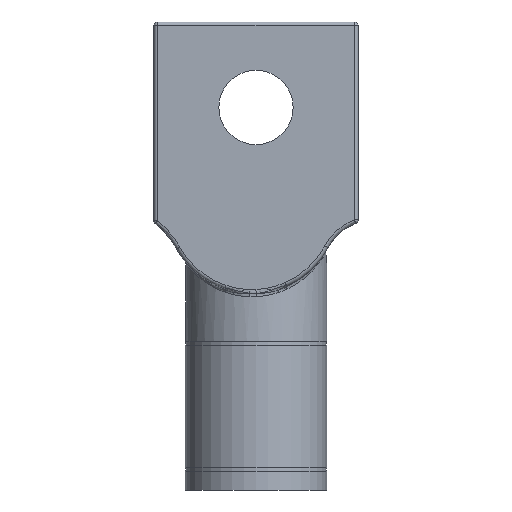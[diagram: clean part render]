
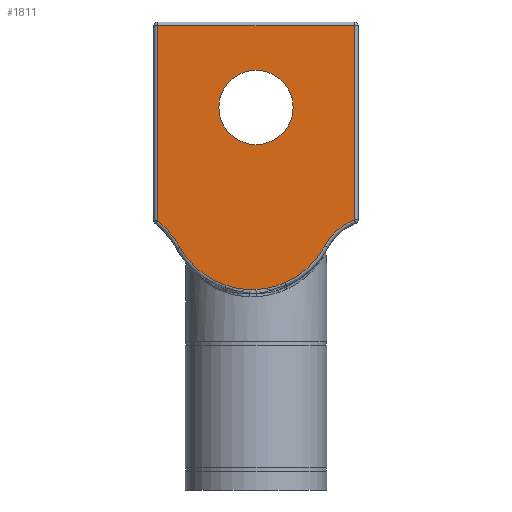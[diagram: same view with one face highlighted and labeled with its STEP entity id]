
A CAD part, front view. The second image highlights one B-rep face of the part: STEP entity #1811.
In plain terms, the highlighted planar face has unit normal (0, -1, 0).
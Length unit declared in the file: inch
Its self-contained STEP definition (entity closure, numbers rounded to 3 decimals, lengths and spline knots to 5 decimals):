
#291 = CARTESIAN_POINT ( 'NONE',  ( 0.07911, -0.19, 0.55868 ) ) ;
#312 = VERTEX_POINT ( 'NONE', #414 ) ;
#313 = VERTEX_POINT ( 'NONE', #415 ) ;
#314 = VERTEX_POINT ( 'NONE', #291 ) ;
#315 = VERTEX_POINT ( 'NONE', #417 ) ;
#323 = VERTEX_POINT ( 'NONE', #440 ) ;
#352 = CARTESIAN_POINT ( 'NONE',  ( -0.08094, -0.19, 0.55097 ) ) ;
#414 = CARTESIAN_POINT ( 'NONE',  ( -0.265, -0.19, 0.72488 ) ) ;
#415 = CARTESIAN_POINT ( 'NONE',  ( 0.265, -0.19, 1.25 ) ) ;
#417 = CARTESIAN_POINT ( 'NONE',  ( -0.0002, -0.19, 0.53984 ) ) ;
#440 = CARTESIAN_POINT ( 'NONE',  ( -0.265, -0.19, 1.25 ) ) ;
#450 = VERTEX_POINT ( 'NONE', #352 ) ;
#451 = VERTEX_POINT ( 'NONE', #571 ) ;
#453 = VERTEX_POINT ( 'NONE', #573 ) ;
#454 = VERTEX_POINT ( 'NONE', #534 ) ;
#534 = CARTESIAN_POINT ( 'NONE',  ( 0.18494, -0.19, 0.65727 ) ) ;
#571 = CARTESIAN_POINT ( 'NONE',  ( -0.20493, -0.19, 0.65368 ) ) ;
#573 = CARTESIAN_POINT ( 'NONE',  ( 0.265, -0.19, 0.7271 ) ) ;
#683 = AXIS2_PLACEMENT_3D ( 'NONE', #3499, #3486, #3485 ) ;
#1811 = ADVANCED_FACE ( 'NONE', ( #4006, #4000 ), #3495, .T. ) ;
#2003 = AXIS2_PLACEMENT_3D ( 'NONE', #4121, #4116, #4114 ) ;
#2006 = AXIS2_PLACEMENT_3D ( 'NONE', #4043, #4040, #4208 ) ;
#2007 = AXIS2_PLACEMENT_3D ( 'NONE', #4088, #4085, #4082 ) ;
#2323 = VERTEX_POINT ( 'NONE', #2324 ) ;
#2324 = CARTESIAN_POINT ( 'NONE',  ( 0., -0.19, 0.93 ) ) ;
#3485 = DIRECTION ( 'NONE',  ( 0., 0., -1. ) ) ;
#3486 = DIRECTION ( 'NONE',  ( 0., -1., 0. ) ) ;
#3495 = PLANE ( 'NONE',  #683 ) ;
#3499 = CARTESIAN_POINT ( 'NONE',  ( 0.275, -0.19, 0.55862 ) ) ;
#3602 = EDGE_LOOP ( 'NONE', ( #3938 ) ) ;
#3643 = EDGE_LOOP ( 'NONE', ( #3937, #3936, #3935, #3934, #3933, #3932, #3931, #3930, #3929 ) ) ;
#3929 = ORIENTED_EDGE ( 'NONE', *, *, #4376, .T. ) ;
#3930 = ORIENTED_EDGE ( 'NONE', *, *, #4375, .T. ) ;
#3931 = ORIENTED_EDGE ( 'NONE', *, *, #4374, .T. ) ;
#3932 = ORIENTED_EDGE ( 'NONE', *, *, #4373, .T. ) ;
#3933 = ORIENTED_EDGE ( 'NONE', *, *, #4369, .F. ) ;
#3934 = ORIENTED_EDGE ( 'NONE', *, *, #4372, .F. ) ;
#3935 = ORIENTED_EDGE ( 'NONE', *, *, #4370, .T. ) ;
#3936 = ORIENTED_EDGE ( 'NONE', *, *, #4371, .T. ) ;
#3937 = ORIENTED_EDGE ( 'NONE', *, *, #4367, .T. ) ;
#3938 = ORIENTED_EDGE ( 'NONE', *, *, #4368, .F. ) ;
#4000 = FACE_OUTER_BOUND ( 'NONE', #3643, .T. ) ;
#4006 = FACE_BOUND ( 'NONE', #3602, .T. ) ;
#4040 = DIRECTION ( 'NONE',  ( 0., -1., 0. ) ) ;
#4043 = CARTESIAN_POINT ( 'NONE',  ( -0.0096, -0.19, 0.76 ) ) ;
#4046 = CARTESIAN_POINT ( 'NONE',  ( -0.08094, -0.19, 0.55097 ) ) ;
#4048 = CARTESIAN_POINT ( 'NONE',  ( -0.06767, -0.19, 0.54662 ) ) ;
#4050 = CARTESIAN_POINT ( 'NONE',  ( -0.05423, -0.19, 0.54351 ) ) ;
#4052 = CARTESIAN_POINT ( 'NONE',  ( -0.03399, -0.19, 0.54073 ) ) ;
#4054 = CARTESIAN_POINT ( 'NONE',  ( -0.02723, -0.19, 0.54011 ) ) ;
#4060 = CARTESIAN_POINT ( 'NONE',  ( -0.01533, -0.19, 0.53958 ) ) ;
#4061 = CARTESIAN_POINT ( 'NONE',  ( -0.00857, -0.19, 0.53952 ) ) ;
#4064 = CARTESIAN_POINT ( 'NONE',  ( -0.00182, -0.19, 0.53976 ) ) ;
#4070 = CARTESIAN_POINT ( 'NONE',  ( -0.20493, -0.19, 0.65368 ) ) ;
#4072 = CARTESIAN_POINT ( 'NONE',  ( -0.22023, -0.19, 0.6814 ) ) ;
#4075 = CARTESIAN_POINT ( 'NONE',  ( -0.24025, -0.19, 0.70513 ) ) ;
#4077 = CARTESIAN_POINT ( 'NONE',  ( -0.0002, -0.19, 0.53984 ) ) ;
#4079 = CARTESIAN_POINT ( 'NONE',  ( 0.18494, -0.19, 0.65727 ) ) ;
#4082 = DIRECTION ( 'NONE',  ( 0., 0., -1. ) ) ;
#4085 = DIRECTION ( 'NONE',  ( 0., -1., 0. ) ) ;
#4088 = CARTESIAN_POINT ( 'NONE',  ( -0.01233, -0.19, 0.76 ) ) ;
#4089 = CARTESIAN_POINT ( 'NONE',  ( -0.0002, -0.19, 0.53984 ) ) ;
#4092 = CARTESIAN_POINT ( 'NONE',  ( 0.00142, -0.19, 0.53992 ) ) ;
#4096 = CARTESIAN_POINT ( 'NONE',  ( 0.00816, -0.19, 0.54031 ) ) ;
#4099 = CARTESIAN_POINT ( 'NONE',  ( 0.01489, -0.19, 0.54102 ) ) ;
#4101 = CARTESIAN_POINT ( 'NONE',  ( 0.02668, -0.19, 0.54269 ) ) ;
#4104 = CARTESIAN_POINT ( 'NONE',  ( 0.03335, -0.19, 0.54395 ) ) ;
#4106 = CARTESIAN_POINT ( 'NONE',  ( 0.05324, -0.19, 0.54866 ) ) ;
#4112 = CARTESIAN_POINT ( 'NONE',  ( -0.265, -0.19, 0.72488 ) ) ;
#4114 = DIRECTION ( 'NONE',  ( 0., 0., -1. ) ) ;
#4116 = DIRECTION ( 'NONE',  ( 0., -1., 0. ) ) ;
#4119 = CARTESIAN_POINT ( 'NONE',  ( 0.07911, -0.19, 0.55868 ) ) ;
#4121 = CARTESIAN_POINT ( 'NONE',  ( 0., -0.19, 1.03 ) ) ;
#4125 = DIRECTION ( 'NONE',  ( 0., 0., -1. ) ) ;
#4127 = CARTESIAN_POINT ( 'NONE',  ( -0.265, -0.19, 0.72 ) ) ;
#4129 = CARTESIAN_POINT ( 'NONE',  ( 0.06632, -0.19, 0.55304 ) ) ;
#4189 = DIRECTION ( 'NONE',  ( -1., 0., 0. ) ) ;
#4190 = CARTESIAN_POINT ( 'NONE',  ( -0.275, -0.19, 1.25 ) ) ;
#4192 = DIRECTION ( 'NONE',  ( 0., 0., 1. ) ) ;
#4194 = CARTESIAN_POINT ( 'NONE',  ( 0.265, -0.19, 0.55862 ) ) ;
#4195 = CARTESIAN_POINT ( 'NONE',  ( 0.265, -0.19, 0.7271 ) ) ;
#4196 = CARTESIAN_POINT ( 'NONE',  ( 0.25645, -0.19, 0.72389 ) ) ;
#4198 = CARTESIAN_POINT ( 'NONE',  ( 0.24829, -0.19, 0.72001 ) ) ;
#4199 = CARTESIAN_POINT ( 'NONE',  ( 0.23276, -0.19, 0.71087 ) ) ;
#4201 = CARTESIAN_POINT ( 'NONE',  ( 0.22535, -0.19, 0.70557 ) ) ;
#4202 = CARTESIAN_POINT ( 'NONE',  ( 0.2116, -0.19, 0.69363 ) ) ;
#4204 = CARTESIAN_POINT ( 'NONE',  ( 0.20537, -0.19, 0.68711 ) ) ;
#4205 = CARTESIAN_POINT ( 'NONE',  ( 0.19419, -0.19, 0.67299 ) ) ;
#4206 = CARTESIAN_POINT ( 'NONE',  ( 0.18921, -0.19, 0.66536 ) ) ;
#4208 = DIRECTION ( 'NONE',  ( 0., 0., -1. ) ) ;
#4340 = B_SPLINE_CURVE_WITH_KNOTS ( 'NONE', 3,
 ( #4119, #4129, #4106, #4104, #4101, #4099, #4096, #4092, #4089 ),
 .UNSPECIFIED., .F., .F.,
 ( 4, 2, 2, 1, 4 ),
 ( 0., 0.5, 0.75, 0.94, 1. ),
 .UNSPECIFIED. ) ;
#4341 = B_SPLINE_CURVE_WITH_KNOTS ( 'NONE', 3,
 ( #4112, #4075, #4072, #4070 ),
 .UNSPECIFIED., .F., .F.,
 ( 4, 4 ),
 ( 0., 0.00237 ),
 .UNSPECIFIED. ) ;
#4342 = B_SPLINE_CURVE_WITH_KNOTS ( 'NONE', 3,
 ( #4077, #4064, #4061, #4060, #4054, #4052, #4050, #4048, #4046 ),
 .UNSPECIFIED., .F., .F.,
 ( 4, 1, 2, 2, 4 ),
 ( 0., 0.06, 0.25, 0.5, 1. ),
 .UNSPECIFIED. ) ;
#4343 = B_SPLINE_CURVE_WITH_KNOTS ( 'NONE', 3,
 ( #4079, #4206, #4205, #4204, #4202, #4201, #4199, #4198, #4196, #4195 ),
 .UNSPECIFIED., .F., .F.,
 ( 4, 2, 2, 2, 4 ),
 ( 0., 0.0007, 0.00139, 0.00209, 0.00278 ),
 .UNSPECIFIED. ) ;
#4367 = EDGE_CURVE ( 'NONE', #323, #312, #4715, .T. ) ;
#4368 = EDGE_CURVE ( 'NONE', #2323, #2323, #4718, .T. ) ;
#4369 = EDGE_CURVE ( 'NONE', #314, #315, #4340, .T. ) ;
#4370 = EDGE_CURVE ( 'NONE', #451, #450, #4720, .T. ) ;
#4371 = EDGE_CURVE ( 'NONE', #312, #451, #4341, .T. ) ;
#4372 = EDGE_CURVE ( 'NONE', #315, #450, #4342, .T. ) ;
#4373 = EDGE_CURVE ( 'NONE', #314, #454, #4722, .T. ) ;
#4374 = EDGE_CURVE ( 'NONE', #454, #453, #4343, .T. ) ;
#4375 = EDGE_CURVE ( 'NONE', #453, #313, #4708, .T. ) ;
#4376 = EDGE_CURVE ( 'NONE', #313, #323, #4723, .T. ) ;
#4708 = LINE ( 'NONE', #4194, #4721 ) ;
#4714 = VECTOR ( 'NONE', #4125, 39.37008 ) ;
#4715 = LINE ( 'NONE', #4127, #4714 ) ;
#4718 = CIRCLE ( 'NONE', #2003, 0.1 ) ;
#4720 = CIRCLE ( 'NONE', #2007, 0.22 ) ;
#4721 = VECTOR ( 'NONE', #4192, 39.37008 ) ;
#4722 = CIRCLE ( 'NONE', #2006, 0.22 ) ;
#4723 = LINE ( 'NONE', #4190, #4724 ) ;
#4724 = VECTOR ( 'NONE', #4189, 39.37008 ) ;
